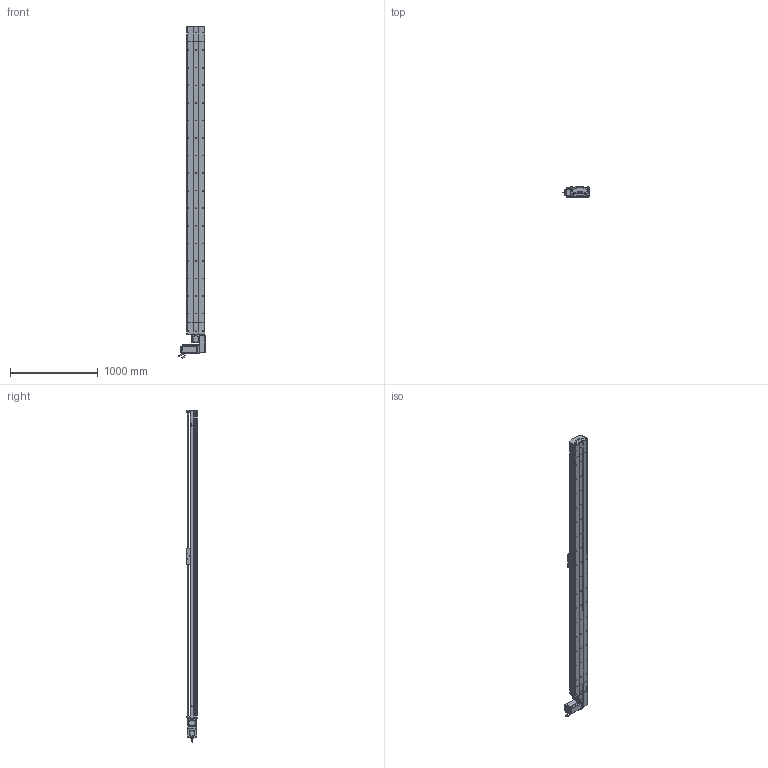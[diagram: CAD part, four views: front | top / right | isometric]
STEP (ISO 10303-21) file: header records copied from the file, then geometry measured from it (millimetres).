
FILE_DESCRIPTION (( 'STEP AP214' ), '1' );
FILE_NAME ('D20 TBH LH S3200.STEP', '2010-07-01T08:52:58', ( 'Conseil Régional Haute-Normandie' ), ( 'Conseil Régional Haute-Normandie' ), 'SwSTEP 2.0', 'SolidWorks 2010', '' );
FILE_SCHEMA (( 'AUTOMOTIVE_DESIGN' ));
Length unit declared in the file: millimetre
Products named in the file (40): corp D20 S3200_Default; corpl head D20_Default; head LH_Default; guide D20B; Chariot D20B; chariot D20B_Default; rail + couroie  D20 S3200; couvercle D20 S3200_Default; Course B L3200_Default; D20 TBH LH S3200; corpl tail D20_Default; tail D20_Default; vis M8 L12_Default; clavette; Conecteur_Default; Conecteur2_Default; codeur 110BLDC170A-630x; corps 110BLDC170A-630x; avant 110BLDC170A-630x; Moteur motionking 110BLDC170A-640x; vis M5 L70_Default; Plaque racord D20LH_Default; Renvoi LH D20_Default; vis M5 L5_Default; couroie_Default; cache D20_Default; poulie tail D20_Default; cache arbre D20_Default; plaque de  bout head D20B LH_Default; poulie head D20_Default; couvercle head D20_Default; rail head D20; plaque de  bout tail D20_Default; vis M5 L25_Default; rail tail D20; vis M5 L8 90°_Default; vis M5 L12_Default; tete d''axe poulie D20B; couvercle tail D20_Default; Couroie tail D20_Default
Assembly tree (71 placements, depth 4):
  D20 TBH LH S3200
    head LH_Default
      Renvoi LH D20_Default
      vis M5 L5_Default  x4
      rail head D20
      vis M5 L12_Default  x10
      vis M8 L12_Default  x4
      vis M5 L70_Default  x4
      vis M5 L25_Default  x2
      cache D20_Default  x2
      couroie_Default
      Moteur motionking 110BLDC170A-640x
        avant 110BLDC170A-630x
        corps 110BLDC170A-630x
        Conecteur2_Default
        codeur 110BLDC170A-630x
        clavette
        Conecteur_Default
      cache arbre D20_Default
      plaque de  bout head D20B LH_Default
      couvercle head D20_Default
      corpl head D20_Default
      Plaque racord D20LH_Default
      poulie head D20_Default
    Course B L3200_Default
      couvercle D20 S3200_Default
      corp D20 S3200_Default
      rail + couroie  D20 S3200
    tail D20_Default
      couvercle tail D20_Default
      vis M5 L12_Default  x4
      vis M5 L8 90°_Default  x2
      plaque de  bout tail D20_Default
      vis M5 L25_Default  x2
      rail tail D20
      tete d''axe poulie D20B
      poulie tail D20_Default
      Couroie tail D20_Default
      corpl tail D20_Default
    chariot D20B_Default
      Chariot D20B
      vis M5 L12_Default  x4
      guide D20B  x2
Bounding box: 304.2 x 115.7 x 3780 mm (x, y, z)
Volume: 28475014.4 mm3; surface area: 7044083.5 mm2
Topology: 95 solids, 95 shells, 2876 faces, 7410 edges, 4791 vertices
Faces by surface type: plane 1643, cylinder 909, bspline 136, cone 99, torus 89
Entity records: 93457 total; most frequent: CARTESIAN_POINT 30525, ORIENTED_EDGE 11476, DIRECTION 10761, EDGE_CURVE 5738, VERTEX_POINT 3777, LINE 3615, VECTOR 3615, AXIS2_PLACEMENT_3D 3573
